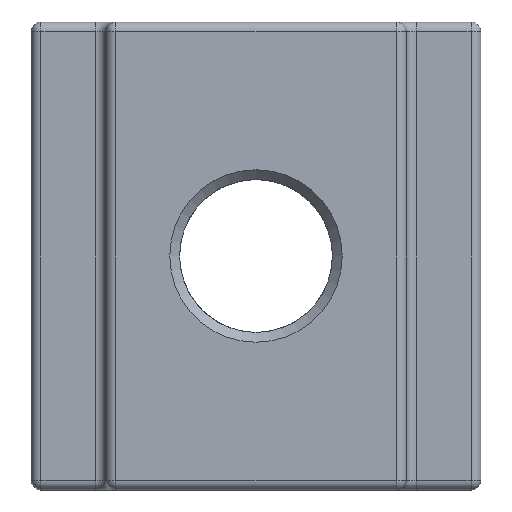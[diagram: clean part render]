
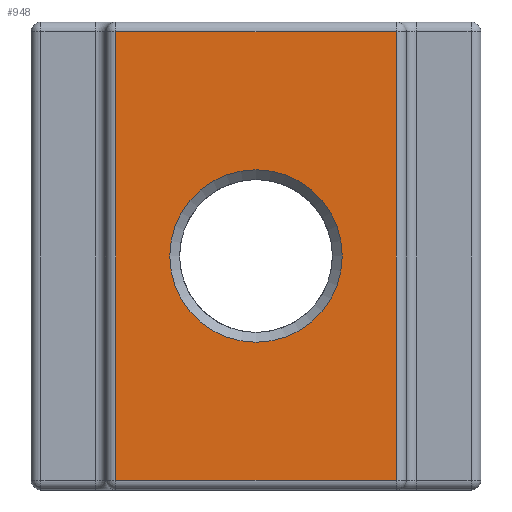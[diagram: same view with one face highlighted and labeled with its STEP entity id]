
A CAD part, front view. The second image highlights one B-rep face of the part: STEP entity #948.
In plain terms, the highlighted planar face has unit normal (0, -1, 0).
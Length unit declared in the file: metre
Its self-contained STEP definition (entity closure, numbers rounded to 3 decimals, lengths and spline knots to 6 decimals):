
#54=PLANE('',#1067);
#110=LINE('',#1511,#162);
#113=LINE('',#1518,#165);
#120=LINE('',#1536,#172);
#123=LINE('',#1544,#175);
#162=VECTOR('',#1266,1.);
#165=VECTOR('',#1273,1.);
#172=VECTOR('',#1294,1.);
#175=VECTOR('',#1307,1.);
#386=ORIENTED_EDGE('',*,*,#608,.T.);
#387=ORIENTED_EDGE('',*,*,#551,.T.);
#388=ORIENTED_EDGE('',*,*,#547,.T.);
#389=ORIENTED_EDGE('',*,*,#561,.T.);
#390=ORIENTED_EDGE('',*,*,#566,.T.);
#547=EDGE_CURVE('',#654,#659,#110,.T.);
#551=EDGE_CURVE('',#660,#654,#113,.T.);
#561=EDGE_CURVE('',#659,#665,#120,.T.);
#566=EDGE_CURVE('',#665,#660,#123,.T.);
#608=EDGE_CURVE('',#704,#704,#757,.T.);
#654=VERTEX_POINT('',#1492);
#659=VERTEX_POINT('',#1508);
#660=VERTEX_POINT('',#1515);
#665=VERTEX_POINT('',#1535);
#704=VERTEX_POINT('',#2452);
#757=CIRCLE('',#1068,0.00175);
#804=EDGE_LOOP('',(#386));
#805=EDGE_LOOP('',(#387,#388,#389,#390));
#863=FACE_BOUND('',#804,.T.);
#864=FACE_BOUND('',#805,.T.);
#948=ADVANCED_FACE('',(#863,#864),#54,.F.);
#1067=AXIS2_PLACEMENT_3D('',#2450,#1322,#1323);
#1068=AXIS2_PLACEMENT_3D('',#2451,#1324,#1325);
#1266=DIRECTION('',(0.,0.,1.));
#1273=DIRECTION('',(1.,0.,0.));
#1294=DIRECTION('',(-1.,0.,0.));
#1307=DIRECTION('',(0.,0.,-1.));
#1322=DIRECTION('',(0.,1.,0.));
#1323=DIRECTION('',(-1.,0.,0.));
#1324=DIRECTION('',(0.,1.,0.));
#1325=DIRECTION('',(-1.,0.,0.));
#1492=CARTESIAN_POINT('',(0.29907,-0.031369,0.032843));
#1508=CARTESIAN_POINT('',(0.29907,-0.031369,0.041943));
#1511=CARTESIAN_POINT('',(0.29907,-0.031369,0.042143));
#1515=CARTESIAN_POINT('',(0.29337,-0.031369,0.032843));
#1518=CARTESIAN_POINT('',(0.29927,-0.031369,0.032843));
#1535=CARTESIAN_POINT('',(0.29337,-0.031369,0.041943));
#1536=CARTESIAN_POINT('',(0.29927,-0.031369,0.041943));
#1544=CARTESIAN_POINT('',(0.29337,-0.031369,0.042143));
#2450=CARTESIAN_POINT('',(0.29927,-0.031369,0.042143));
#2451=CARTESIAN_POINT('',(0.29622,-0.031369,0.037393));
#2452=CARTESIAN_POINT('',(0.29447,-0.031369,0.037393));
